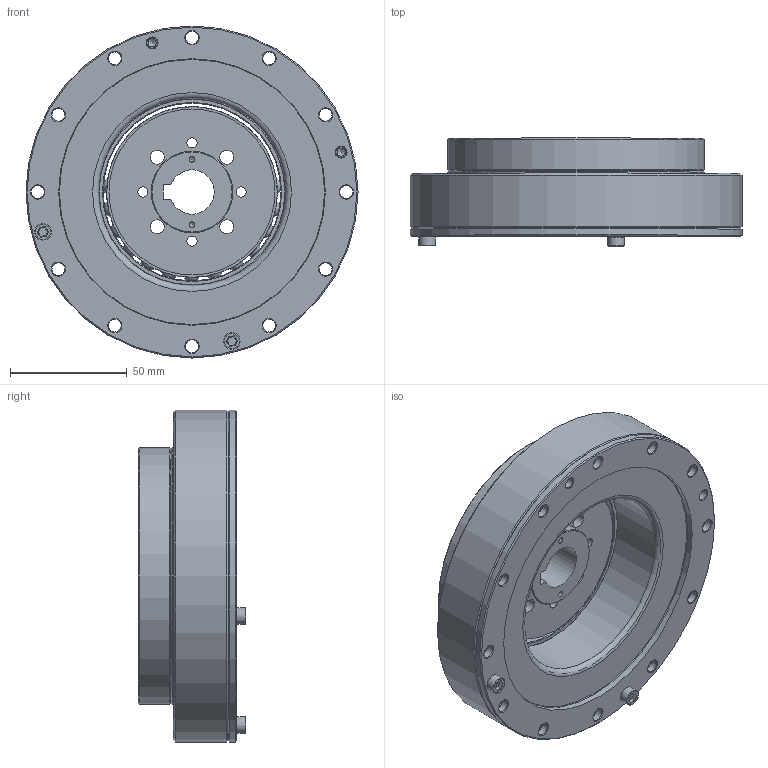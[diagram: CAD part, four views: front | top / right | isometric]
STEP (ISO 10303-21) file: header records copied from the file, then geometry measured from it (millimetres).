
FILE_DESCRIPTION(/* description */ (''),/* implementation_level */ '2;1');
FILE_NAME(/* name */ 'LHG-32-U-I.stp',/* time_stamp */ '2021-12-15T15:09:52+08:00',/* author */ (''),/* organization */ (''),/* preprocessor_version */ 'ST-DEVELOPER v16.7',/* originating_system */ 'SIEMENS PLM Software NX 12.0',/* authorisation */ '');
FILE_SCHEMA (('AUTOMOTIVE_DESIGN { 1 0 10303 214 3 1 1 1 }'));
Length unit declared in the file: millimetre
Products named in the file (1): LHT-32-U-I_stp
Bounding box: 142 x 46 x 142 mm (x, y, z)
Volume: 371543.8 mm3; surface area: 162579.5 mm2
Topology: 27 solids, 27 shells, 510 faces, 1370 edges, 905 vertices
Faces by surface type: cylinder 226, cone 128, plane 118, torus 23, sphere 13, revolution 2
Full cylindrical faces by diameter (mm): 2.459 x2, 3.432 x16, 4.351 x20, 4.5 x16, 5.5 x40, 6 x4, 7 x4, 7.5 x4, 35 x1, 59 x1, 60 x1, 64 x2, 67 x1, 71 x1, 73 x1, 76 x1, 80 x2, 82 x1, 83 x2, 88 x1, 90 x1, 92.6 x1, 109.75 x2, 110 x1, 114 x1, 120 x1, 123.8 x1, 142 x2
Entity records: 13174 total; most frequent: DIRECTION 2468, CARTESIAN_POINT 2060, ORIENTED_EDGE 1666, AXIS2_PLACEMENT_3D 1122, EDGE_LOOP 934, EDGE_CURVE 833, FACE_BOUND 807, VERTEX_POINT 714
